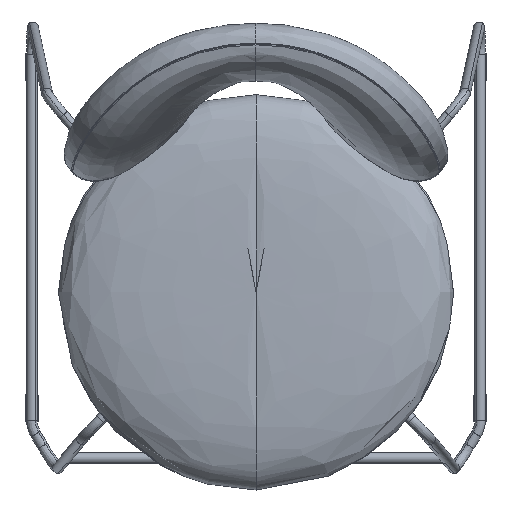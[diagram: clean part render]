
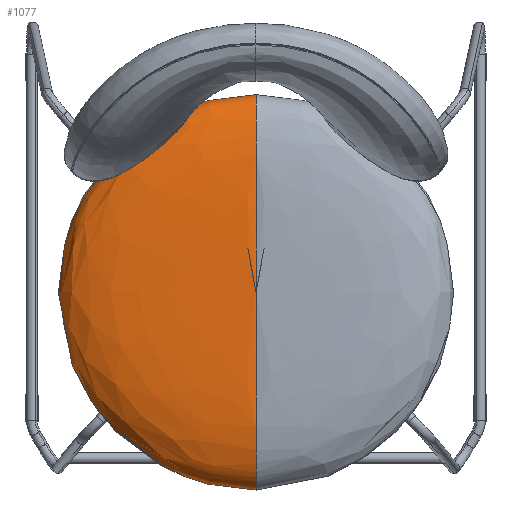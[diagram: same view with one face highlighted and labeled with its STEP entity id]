
A CAD part, top view. The second image highlights one B-rep face of the part: STEP entity #1077.
In plain terms, the highlighted free-form (B-spline) face has degree [3, 2] with [8, 5] control points.
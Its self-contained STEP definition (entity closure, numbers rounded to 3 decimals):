
#1077=ADVANCED_FACE('',(#1297),#5238,.T.);
#1297=FACE_OUTER_BOUND('',#1517,.T.);
#1517=EDGE_LOOP('',(#2442,#2443));
#2442=ORIENTED_EDGE('',*,*,#3301,.T.);
#2443=ORIENTED_EDGE('',*,*,#3300,.F.);
#3300=EDGE_CURVE('',#5159,#5160,#4373,.T.);
#3301=EDGE_CURVE('',#5159,#5160,#4374,.T.);
#4373=B_SPLINE_CURVE_WITH_KNOTS('',3,(#59795,#59796,#59797,#59798,#59799,
#59800,#59801,#59802),.UNSPECIFIED.,.F.,.F.,(4,3,1,4),(-265.,
0.,117.5,235.),.UNSPECIFIED.);
#4374=B_SPLINE_CURVE_WITH_KNOTS('',3,(#59803,#59804,#59805,#59806,#59807,
#59808,#59809,#59810),.UNSPECIFIED.,.F.,.F.,(4,3,1,4),(-265.,
0.,117.5,235.),.UNSPECIFIED.);
#5159=VERTEX_POINT('',#59793);
#5160=VERTEX_POINT('',#59794);
#5238=(
BOUNDED_SURFACE()
B_SPLINE_SURFACE(3,2,((#59753,#59754,#59755,#59756,#59757),(#59758,#59759,
#59760,#59761,#59762),(#59763,#59764,#59765,#59766,#59767),(#59768,#59769,
#59770,#59771,#59772),(#59773,#59774,#59775,#59776,#59777),(#59778,#59779,
#59780,#59781,#59782),(#59783,#59784,#59785,#59786,#59787),(#59788,#59789,
#59790,#59791,#59792)),.UNSPECIFIED.,.F.,.F.,.F.)
B_SPLINE_SURFACE_WITH_KNOTS((4,3,1,4),(3,2,3),(-265.,0.,117.5,
235.),(691.148,1036.723,1382.297),
 .UNSPECIFIED.)
GEOMETRIC_REPRESENTATION_ITEM()
RATIONAL_B_SPLINE_SURFACE(((1.,0.707,1.,0.707,1.),
(1.,0.707,1.,0.707,1.),(1.,0.707,1.,
0.707,1.),(1.,0.707,1.,0.707,1.),(1.,
0.707,1.,0.707,1.),(1.,0.707,1.,0.707,
1.),(1.,0.707,1.,0.707,1.),(1.,0.707,
1.,0.707,1.)))
REPRESENTATION_ITEM('')
SURFACE()
);
#59753=CARTESIAN_POINT('',(4203.114,2728.154,650.));
#59754=CARTESIAN_POINT('',(4203.114,2728.154,650.));
#59755=CARTESIAN_POINT('',(4203.114,2728.154,650.));
#59756=CARTESIAN_POINT('',(4203.114,2728.154,650.));
#59757=CARTESIAN_POINT('',(4203.114,2728.154,650.));
#59758=CARTESIAN_POINT('',(4203.114,2866.534,650.));
#59759=CARTESIAN_POINT('',(4064.734,2866.534,650.));
#59760=CARTESIAN_POINT('',(4064.734,2728.154,650.));
#59761=CARTESIAN_POINT('',(4064.734,2589.774,650.));
#59762=CARTESIAN_POINT('',(4203.114,2589.774,650.));
#59763=CARTESIAN_POINT('',(4203.114,2948.154,650.));
#59764=CARTESIAN_POINT('',(3983.114,2948.154,650.));
#59765=CARTESIAN_POINT('',(3983.114,2728.154,650.));
#59766=CARTESIAN_POINT('',(3983.114,2508.154,650.));
#59767=CARTESIAN_POINT('',(4203.114,2508.154,650.));
#59768=CARTESIAN_POINT('',(4203.114,2948.154,605.));
#59769=CARTESIAN_POINT('',(3983.114,2948.154,605.));
#59770=CARTESIAN_POINT('',(3983.114,2728.154,605.));
#59771=CARTESIAN_POINT('',(3983.114,2508.154,605.));
#59772=CARTESIAN_POINT('',(4203.114,2508.154,605.));
#59773=CARTESIAN_POINT('',(4203.114,2948.154,590.));
#59774=CARTESIAN_POINT('',(3983.114,2948.154,590.));
#59775=CARTESIAN_POINT('',(3983.114,2728.154,590.));
#59776=CARTESIAN_POINT('',(3983.114,2508.154,590.));
#59777=CARTESIAN_POINT('',(4203.114,2508.154,590.));
#59778=CARTESIAN_POINT('',(4203.114,2933.433,590.));
#59779=CARTESIAN_POINT('',(3997.835,2933.433,590.));
#59780=CARTESIAN_POINT('',(3997.835,2728.154,590.));
#59781=CARTESIAN_POINT('',(3997.835,2522.874,590.));
#59782=CARTESIAN_POINT('',(4203.114,2522.874,590.));
#59783=CARTESIAN_POINT('',(4203.114,2897.272,590.));
#59784=CARTESIAN_POINT('',(4033.996,2897.272,590.));
#59785=CARTESIAN_POINT('',(4033.996,2728.154,590.));
#59786=CARTESIAN_POINT('',(4033.996,2559.036,590.));
#59787=CARTESIAN_POINT('',(4203.114,2559.036,590.));
#59788=CARTESIAN_POINT('',(4203.114,2728.154,590.));
#59789=CARTESIAN_POINT('',(4203.114,2728.154,590.));
#59790=CARTESIAN_POINT('',(4203.114,2728.154,590.));
#59791=CARTESIAN_POINT('',(4203.114,2728.154,590.));
#59792=CARTESIAN_POINT('',(4203.114,2728.154,590.));
#59793=CARTESIAN_POINT('',(4203.114,2728.154,650.));
#59794=CARTESIAN_POINT('',(4203.114,2728.154,590.));
#59795=CARTESIAN_POINT('',(4203.114,2728.154,650.));
#59796=CARTESIAN_POINT('',(4203.114,2589.774,650.));
#59797=CARTESIAN_POINT('',(4203.114,2508.154,650.));
#59798=CARTESIAN_POINT('',(4203.114,2508.154,605.));
#59799=CARTESIAN_POINT('',(4203.114,2508.154,590.));
#59800=CARTESIAN_POINT('',(4203.114,2522.874,590.));
#59801=CARTESIAN_POINT('',(4203.114,2559.036,590.));
#59802=CARTESIAN_POINT('',(4203.114,2728.154,590.));
#59803=CARTESIAN_POINT('',(4203.114,2728.154,650.));
#59804=CARTESIAN_POINT('',(4203.114,2866.534,650.));
#59805=CARTESIAN_POINT('',(4203.114,2948.154,650.));
#59806=CARTESIAN_POINT('',(4203.114,2948.154,605.));
#59807=CARTESIAN_POINT('',(4203.114,2948.154,590.));
#59808=CARTESIAN_POINT('',(4203.114,2933.433,590.));
#59809=CARTESIAN_POINT('',(4203.114,2897.272,590.));
#59810=CARTESIAN_POINT('',(4203.114,2728.154,590.));
